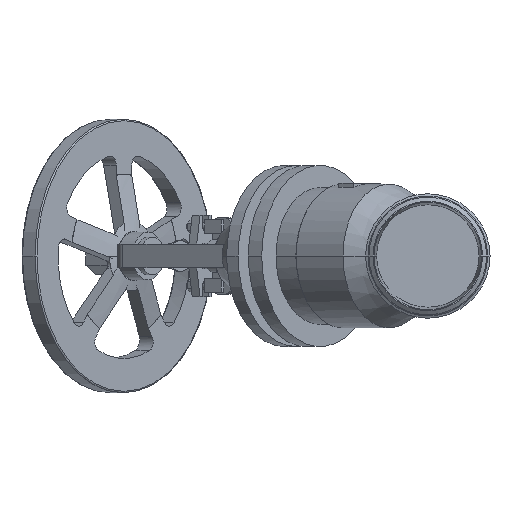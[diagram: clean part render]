
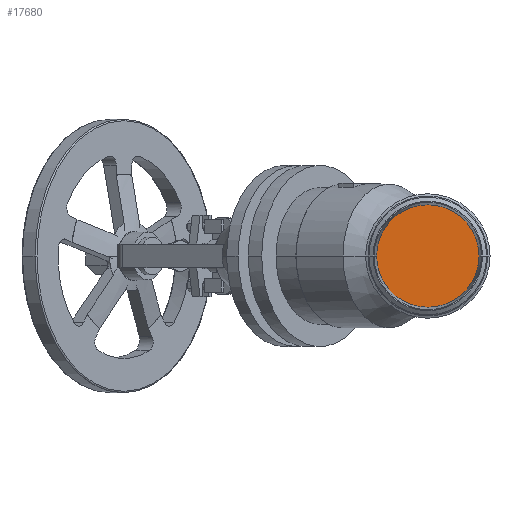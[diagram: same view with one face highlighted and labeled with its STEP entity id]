
A CAD part, left-side view. The second image highlights one B-rep face of the part: STEP entity #17680.
In plain terms, the highlighted planar face has unit normal (-1, 0, 0).
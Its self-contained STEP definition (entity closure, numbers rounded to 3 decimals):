
#3970=CARTESIAN_POINT('',(19.849,-75.,0.));
#3980=VERTEX_POINT('',#3970);
#4160=CARTESIAN_POINT('',(19.849,75.,0.));
#4170=VERTEX_POINT('',#4160);
#4200=CARTESIAN_POINT('',(19.849,0.,0.));
#4210=DIRECTION('',(-1.,0.,0.));
#4220=DIRECTION('',(0.,1.,0.));
#4230=AXIS2_PLACEMENT_3D('',#4200,#4210,#4220);
#4240=CIRCLE('',#4230,75.);
#4250=EDGE_CURVE('',#4170,#3980,#4240,.T.);
#17580=CARTESIAN_POINT('',(19.849,37.5,0.));
#17590=DIRECTION('',(-1.,0.,0.));
#17600=DIRECTION('',(0.,1.,0.));
#17610=AXIS2_PLACEMENT_3D('',#17580,#17590,#17600);
#17620=PLANE('',#17610);
#17630=EDGE_CURVE('',#3980,#4170,#4240,.T.);
#17640=ORIENTED_EDGE('',*,*,#17630,.T.);
#17650=ORIENTED_EDGE('',*,*,#4250,.T.);
#17660=EDGE_LOOP('',(#17650,#17640));
#17670=FACE_OUTER_BOUND('',#17660,.T.);
#17680=ADVANCED_FACE('',(#17670),#17620,.T.);
